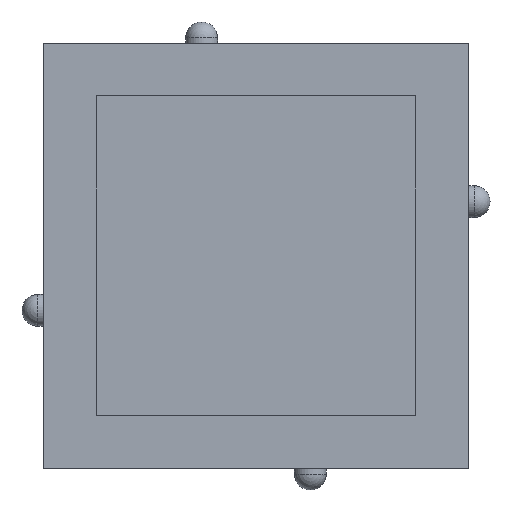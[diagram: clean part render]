
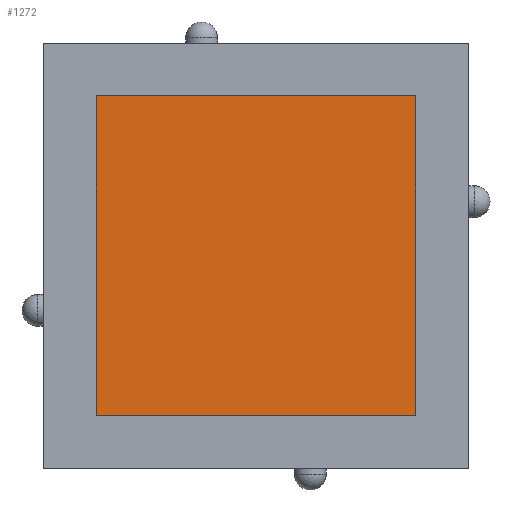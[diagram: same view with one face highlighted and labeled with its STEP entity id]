
A CAD part, top view. The second image highlights one B-rep face of the part: STEP entity #1272.
In plain terms, the highlighted planar face has unit normal (0, 0, 1).
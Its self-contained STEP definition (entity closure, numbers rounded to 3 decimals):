
#795=LINE('',#4494,#928);
#801=LINE('',#4506,#934);
#804=LINE('',#4512,#937);
#805=LINE('',#4514,#938);
#928=VECTOR('',#3372,1.);
#934=VECTOR('',#3388,1.);
#937=VECTOR('',#3393,1.);
#938=VECTOR('',#3394,1.);
#1272=ADVANCED_FACE('',(#1401),#1340,.T.);
#1340=PLANE('',#3004);
#1401=FACE_OUTER_BOUND('',#1536,.T.);
#1536=EDGE_LOOP('',(#2086,#2087,#2088,#2089));
#2086=ORIENTED_EDGE('',*,*,#2759,.F.);
#2087=ORIENTED_EDGE('',*,*,#2753,.F.);
#2088=ORIENTED_EDGE('',*,*,#2762,.F.);
#2089=ORIENTED_EDGE('',*,*,#2763,.F.);
#2455=VERTEX_POINT('',#4493);
#2456=VERTEX_POINT('',#4495);
#2457=VERTEX_POINT('',#4507);
#2459=VERTEX_POINT('',#4513);
#2753=EDGE_CURVE('',#2455,#2456,#795,.T.);
#2759=EDGE_CURVE('',#2456,#2457,#801,.T.);
#2762=EDGE_CURVE('',#2459,#2455,#804,.T.);
#2763=EDGE_CURVE('',#2457,#2459,#805,.T.);
#3004=AXIS2_PLACEMENT_3D('',#4515,#3395,#3396);
#3372=DIRECTION('',(1.,0.,0.));
#3388=DIRECTION('',(0.,-1.,0.));
#3393=DIRECTION('',(0.,1.,0.));
#3394=DIRECTION('',(-1.,0.,0.));
#3395=DIRECTION('',(0.,0.,1.));
#3396=DIRECTION('',(0.,1.,0.));
#4493=CARTESIAN_POINT('',(-30.,30.,44.1));
#4494=CARTESIAN_POINT('',(0.,30.,44.1));
#4495=CARTESIAN_POINT('',(30.,30.,44.1));
#4506=CARTESIAN_POINT('',(30.,0.,44.1));
#4507=CARTESIAN_POINT('',(30.,-30.,44.1));
#4512=CARTESIAN_POINT('',(-30.,0.,44.1));
#4513=CARTESIAN_POINT('',(-30.,-30.,44.1));
#4514=CARTESIAN_POINT('',(0.,-30.,44.1));
#4515=CARTESIAN_POINT('',(0.,0.,44.1));
